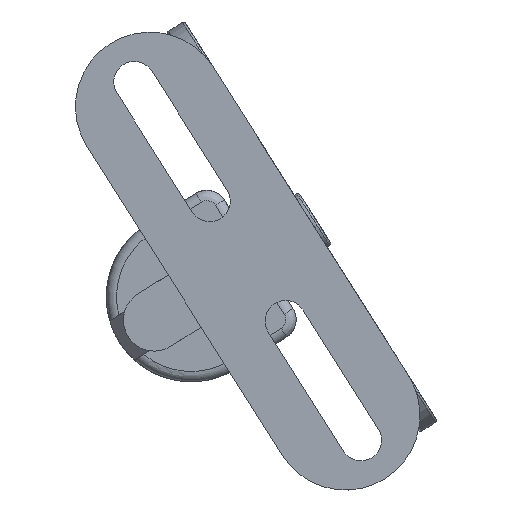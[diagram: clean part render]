
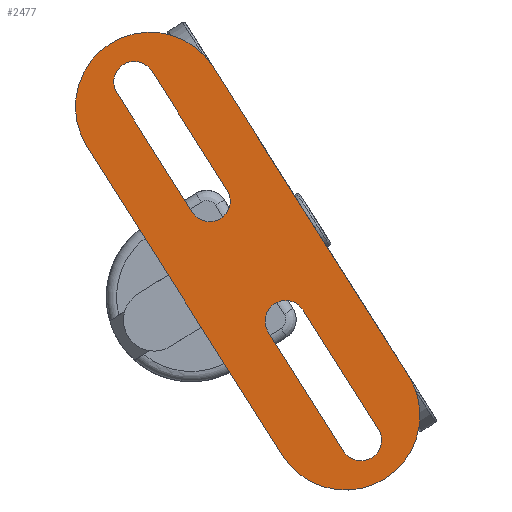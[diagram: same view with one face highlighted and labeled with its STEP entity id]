
A CAD part, front view. The second image highlights one B-rep face of the part: STEP entity #2477.
In plain terms, the highlighted planar face has unit normal (0, -1, 0) as drawn and (1, 0, 0) by its records, which use the part's own axes.
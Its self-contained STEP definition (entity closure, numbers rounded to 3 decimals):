
#133=FACE_BOUND('',#419,.T.);
#134=FACE_BOUND('',#420,.T.);
#177=PLANE('',#2661);
#252=FACE_OUTER_BOUND('',#418,.T.);
#418=EDGE_LOOP('',(#1743,#1744,#1745,#1746));
#419=EDGE_LOOP('',(#1747,#1748,#1749,#1750));
#420=EDGE_LOOP('',(#1751,#1752,#1753,#1754));
#616=LINE('',#3721,#797);
#619=LINE('',#3730,#800);
#624=LINE('',#3745,#805);
#627=LINE('',#3754,#808);
#631=LINE('',#3768,#812);
#634=LINE('',#3777,#815);
#797=VECTOR('',#2947,13.7);
#800=VECTOR('',#2958,13.7);
#805=VECTOR('',#2971,13.7);
#808=VECTOR('',#2982,13.7);
#812=VECTOR('',#2994,35.5);
#815=VECTOR('',#3005,35.5);
#975=CIRCLE('',#2640,2.);
#977=CIRCLE('',#2644,2.);
#979=CIRCLE('',#2648,2.);
#981=CIRCLE('',#2652,2.);
#983=CIRCLE('',#2656,7.25);
#985=CIRCLE('',#2660,7.25);
#1112=VERTEX_POINT('',#3711);
#1113=VERTEX_POINT('',#3713);
#1115=VERTEX_POINT('',#3719);
#1117=VERTEX_POINT('',#3725);
#1120=VERTEX_POINT('',#3735);
#1121=VERTEX_POINT('',#3737);
#1123=VERTEX_POINT('',#3743);
#1125=VERTEX_POINT('',#3749);
#1128=VERTEX_POINT('',#3759);
#1129=VERTEX_POINT('',#3761);
#1131=VERTEX_POINT('',#3767);
#1133=VERTEX_POINT('',#3773);
#1344=EDGE_CURVE('',#1113,#1112,#975,.T.);
#1348=EDGE_CURVE('',#1112,#1115,#616,.T.);
#1351=EDGE_CURVE('',#1115,#1117,#977,.T.);
#1353=EDGE_CURVE('',#1117,#1113,#619,.T.);
#1356=EDGE_CURVE('',#1121,#1120,#979,.T.);
#1360=EDGE_CURVE('',#1120,#1123,#624,.T.);
#1363=EDGE_CURVE('',#1123,#1125,#981,.T.);
#1365=EDGE_CURVE('',#1125,#1121,#627,.T.);
#1368=EDGE_CURVE('',#1129,#1128,#983,.T.);
#1371=EDGE_CURVE('',#1131,#1129,#631,.T.);
#1374=EDGE_CURVE('',#1133,#1131,#985,.T.);
#1376=EDGE_CURVE('',#1128,#1133,#634,.T.);
#1743=ORIENTED_EDGE('',*,*,#1376,.T.);
#1744=ORIENTED_EDGE('',*,*,#1374,.T.);
#1745=ORIENTED_EDGE('',*,*,#1371,.T.);
#1746=ORIENTED_EDGE('',*,*,#1368,.T.);
#1747=ORIENTED_EDGE('',*,*,#1344,.T.);
#1748=ORIENTED_EDGE('',*,*,#1348,.T.);
#1749=ORIENTED_EDGE('',*,*,#1351,.T.);
#1750=ORIENTED_EDGE('',*,*,#1353,.T.);
#1751=ORIENTED_EDGE('',*,*,#1356,.T.);
#1752=ORIENTED_EDGE('',*,*,#1360,.T.);
#1753=ORIENTED_EDGE('',*,*,#1363,.T.);
#1754=ORIENTED_EDGE('',*,*,#1365,.T.);
#2477=ADVANCED_FACE('',(#252,#133,#134),#177,.T.);
#2640=AXIS2_PLACEMENT_3D('',#3714,#2940,#2941);
#2644=AXIS2_PLACEMENT_3D('',#3727,#2953,#2954);
#2648=AXIS2_PLACEMENT_3D('',#3738,#2964,#2965);
#2652=AXIS2_PLACEMENT_3D('',#3751,#2977,#2978);
#2656=AXIS2_PLACEMENT_3D('',#3762,#2988,#2989);
#2660=AXIS2_PLACEMENT_3D('',#3774,#3000,#3001);
#2661=AXIS2_PLACEMENT_3D('',#3776,#3003,#3004);
#2940=DIRECTION('center_axis',(-1.,0.,0.));
#2941=DIRECTION('ref_axis',(0.,1.,0.));
#2947=DIRECTION('',(0.,0.,1.));
#2953=DIRECTION('center_axis',(-1.,0.,0.));
#2954=DIRECTION('ref_axis',(0.,-1.,0.));
#2958=DIRECTION('',(0.,0.,-1.));
#2964=DIRECTION('center_axis',(-1.,0.,0.));
#2965=DIRECTION('ref_axis',(0.,1.,0.));
#2971=DIRECTION('',(0.,0.,-1.));
#2977=DIRECTION('center_axis',(-1.,0.,0.));
#2978=DIRECTION('ref_axis',(0.,-1.,0.));
#2982=DIRECTION('',(0.,0.,1.));
#2988=DIRECTION('center_axis',(1.,0.,0.));
#2989=DIRECTION('ref_axis',(0.,1.,0.));
#2994=DIRECTION('',(0.,0.,1.));
#3000=DIRECTION('center_axis',(1.,0.,0.));
#3001=DIRECTION('ref_axis',(0.,-1.,0.));
#3003=DIRECTION('center_axis',(1.,0.,0.));
#3004=DIRECTION('ref_axis',(0.,0.,-1.));
#3005=DIRECTION('',(0.,0.,-1.));
#3711=CARTESIAN_POINT('',(18.,3.25,-20.6));
#3713=CARTESIAN_POINT('',(18.,7.25,-20.6));
#3714=CARTESIAN_POINT('Origin',(18.,5.25,-20.6));
#3719=CARTESIAN_POINT('',(18.,3.25,-6.9));
#3721=CARTESIAN_POINT('',(18.,3.25,-3.45));
#3725=CARTESIAN_POINT('',(18.,7.25,-6.9));
#3727=CARTESIAN_POINT('Origin',(18.,5.25,-6.9));
#3730=CARTESIAN_POINT('',(18.,7.25,-10.3));
#3735=CARTESIAN_POINT('',(18.,7.25,20.6));
#3737=CARTESIAN_POINT('',(18.,3.25,20.6));
#3738=CARTESIAN_POINT('Origin',(18.,5.25,20.6));
#3743=CARTESIAN_POINT('',(18.,7.25,6.9));
#3745=CARTESIAN_POINT('',(18.,7.25,3.45));
#3749=CARTESIAN_POINT('',(18.,3.25,6.9));
#3751=CARTESIAN_POINT('Origin',(18.,5.25,6.9));
#3754=CARTESIAN_POINT('',(18.,3.25,10.3));
#3759=CARTESIAN_POINT('',(18.,-2.,17.75));
#3761=CARTESIAN_POINT('',(18.,12.5,17.75));
#3762=CARTESIAN_POINT('Origin',(18.,5.25,17.75));
#3767=CARTESIAN_POINT('',(18.,12.5,-17.75));
#3768=CARTESIAN_POINT('',(18.,12.5,-17.75));
#3773=CARTESIAN_POINT('',(18.,-2.,-17.75));
#3774=CARTESIAN_POINT('Origin',(18.,5.25,-17.75));
#3776=CARTESIAN_POINT('Origin',(18.,5.25,0.));
#3777=CARTESIAN_POINT('',(18.,-2.,17.75));
